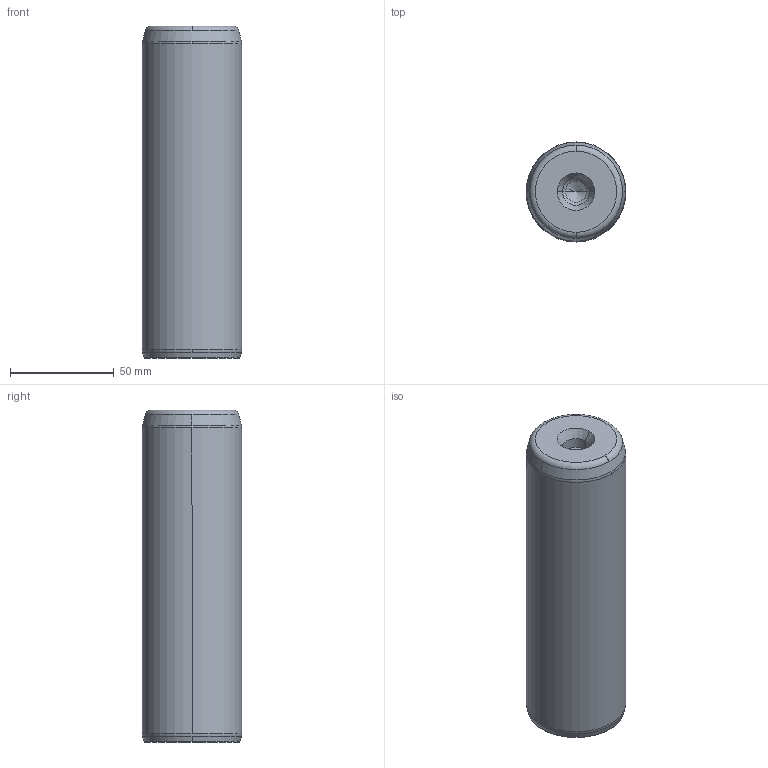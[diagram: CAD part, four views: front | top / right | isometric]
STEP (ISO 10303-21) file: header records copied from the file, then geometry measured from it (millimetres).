
FILE_DESCRIPTION((''),'2;1');
FILE_NAME('P10_048_160.stp','2008-12-23T16:07:22',(''),(''),'Mechanical Desktop 2009','Mechanical Desktop 2009',', , ');
FILE_SCHEMA(('CONFIG_CONTROL_DESIGN'));
Length unit declared in the file: millimetre
Products named in the file (5): Product; ProductAA; blmdl1; ProductA; blmdl1A
Assembly tree (2 placements, depth 3):
  Product
    ProductAA
      blmdl1
  ProductA
  blmdl1A
Bounding box: 48 x 48 x 160 mm (x, y, z)
Volume: 283962.7 mm3; surface area: 28404.3 mm2
Topology: 1 solids, 1 shells, 26 faces, 66 edges, 41 vertices
Faces by surface type: cone 10, torus 8, cylinder 6, plane 2
Entity records: 1012 total; most frequent: DIRECTION 170, CARTESIAN_POINT 134, ORIENTED_EDGE 128, AXIS2_PLACEMENT_3D 77, EDGE_CURVE 64, CIRCLE 48, VERTEX_POINT 41, EDGE_LOOP 27
